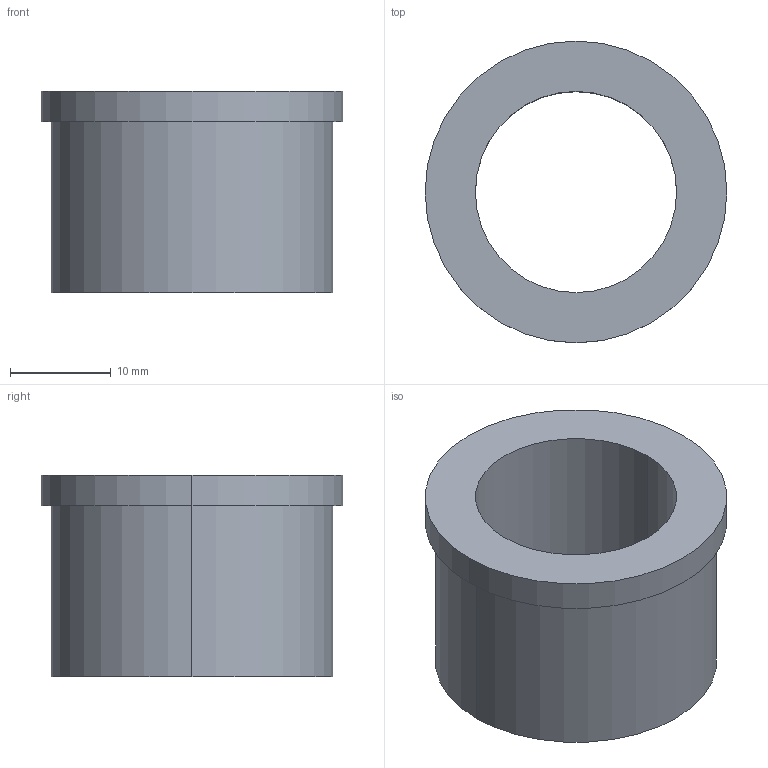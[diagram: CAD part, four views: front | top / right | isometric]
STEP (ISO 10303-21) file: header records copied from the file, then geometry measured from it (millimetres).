
FILE_DESCRIPTION(/* description */ (''),/* implementation_level */ '2;1');
FILE_NAME(/* name */ '3d_tgfz20-20_00392_r00.stp',/* time_stamp */ '2011-01-10T14:09:02+09:00',/* author */ ('MISUMI'),/* organization */ (''),/* preprocessor_version */ 'ST-DEVELOPER v11',/* originating_system */ 'UGS - NX 5.0',/* authorisation */ '');
FILE_SCHEMA (('CONFIG_CONTROL_DESIGN'));
Length unit declared in the file: millimetre
Products named in the file (1): 3d_tgfz20-20_00392_r00
Bounding box: 30 x 30 x 20 mm (x, y, z)
Volume: 6305.2 mm3; surface area: 3820.2 mm2
Topology: 1 solids, 1 shells, 9 faces, 18 edges, 12 vertices
Faces by surface type: cylinder 6, plane 3
Entity records: 334 total; most frequent: DIRECTION 50, CARTESIAN_POINT 40, ORIENTED_EDGE 36, AXIS2_PLACEMENT_3D 22, EDGE_CURVE 18, EDGE_LOOP 12, CIRCLE 12, VERTEX_POINT 12
